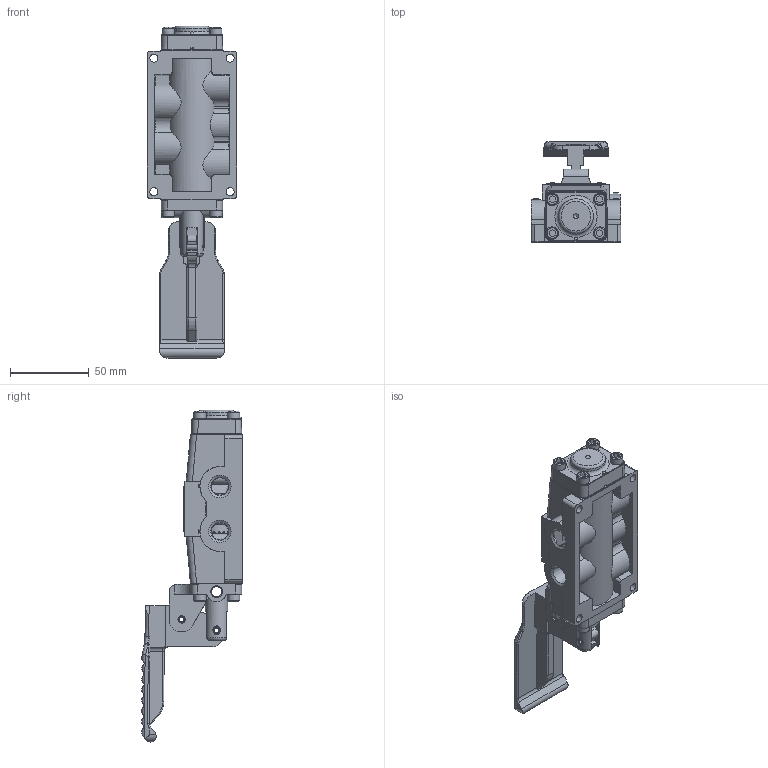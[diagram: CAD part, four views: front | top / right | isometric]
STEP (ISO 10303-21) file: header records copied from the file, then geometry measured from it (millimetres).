
FILE_DESCRIPTION(/* description */ (''),/* implementation_level */ '2;1');
FILE_NAME(/* name */ 'D:\Website Files\stp\Valves\Pedal\FO\FO2LOSS.stp',/* time_stamp */ '2016-07-22T19:53:44-04:00',/* author */ ('RMcKenna'),/* organization */ (''),/* preprocessor_version */ 'ST-DEVELOPER v15.6',/* originating_system */ 'Autodesk Inventor 2015',/* authorisation */ '');
FILE_SCHEMA (('AUTOMOTIVE_DESIGN { 1 0 10303 214 3 1 1 }'));
Length unit declared in the file: centimetre
Products named in the file (1): Part1
Bounding box: 57.15 x 64.05 x 211.09 mm (x, y, z)
Volume: 182976.2 mm3; surface area: 67520.6 mm2
Topology: 1 solids, 25 shells, 1325 faces, 3313 edges, 2122 vertices
Faces by surface type: plane 594, cylinder 296, cone 247, torus 103, bspline 82, sphere 3
Full cylindrical faces by diameter (mm): 2.07 x2, 2.261 x2, 2.381 x1, 2.778 x2, 3.175 x3, 3.683 x8, 4.75 x2, 4.763 x2, 4.826 x8, 4.978 x4, 5.156 x12, 6.528 x3, 7.938 x8, 8.153 x1, 9.922 x1, 11.113 x1, 11.303 x2, 14.275 x1, 14.986 x1, 18.605 x1, 18.745 x12, 19.177 x2, 23.825 x6
Entity records: 43295 total; most frequent: CARTESIAN_POINT 12653, ORIENTED_EDGE 6076, DIRECTION 5983, EDGE_CURVE 3037, AXIS2_PLACEMENT_3D 2285, VERTEX_POINT 2039, EDGE_LOOP 1657, LINE 1413
